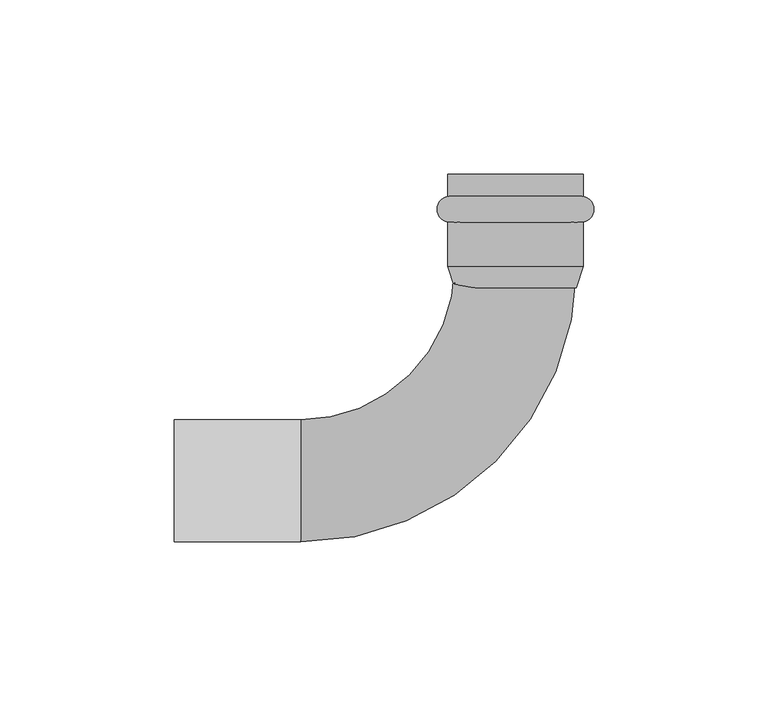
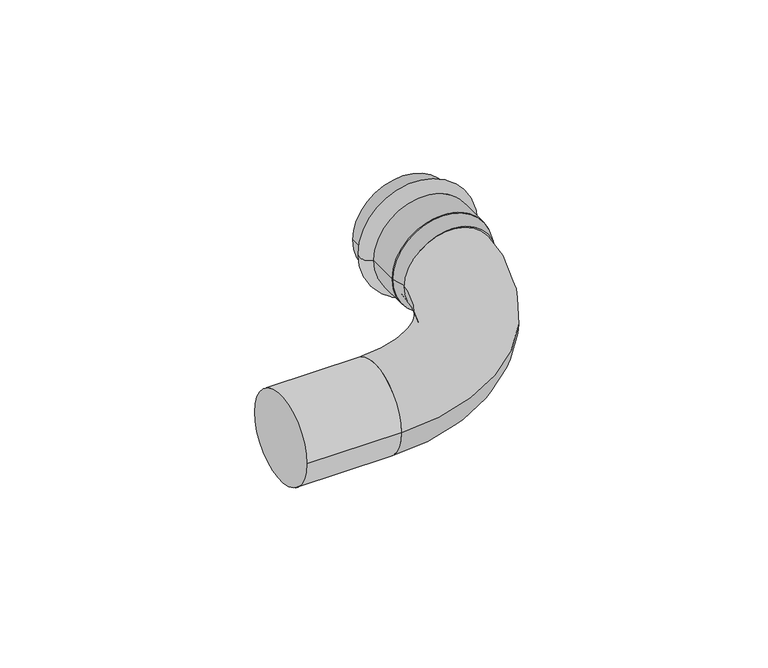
"""IFC4 building model written with IfcOpenShell, lengths in millimetres: pipe fitting geometry, VALTEC_VTi.950.I_Угольник 90° (раструб–труба) нержавеющая сталь : VTi.950.I."""

from ifc_helpers import new_model, si_unit, point, frame, origin, origin_2d, place, context, project, spatial, polyline, circle_curve, ellipse_curve, trimmed, segment, composite_curve, outline, extrude, source, transform, mapped, element, save
from ifc_brep_helpers import plane_surface, cylinder_surface, revolved_surface, advanced_brep


def pipe_fitting_832404bc(model_context):
    return source(origin(), model_context, "Body", "SolidModel", [
        advanced_brep(
        [(-19.4, 81.6432371, 0.0), (19.4, 81.6432371, 0.0), (19.4, 74.2567629, 0.0), (-19.4, 74.2567629, 0.0), (-19.4, 88.0, 0.0), (19.4, 88.0, 0.0), (-17.5, 88.0, 0.0), (17.5, 88.0, 0.0), (-17.5, 61.6, 0.0), (17.5, 61.6, 0.0), (-19.4, 61.6, 0.0), (19.4, 61.6, 0.0)],
        [
            (0, 1, circle_curve(frame((0.0, 81.6432371, 0.0), z_axis=(0.0, -1.0, 0.0), x_axis=(1.0, 0.0, 0.0)), 19.4)),
            (1, 2, circle_curve(frame((18.75, 77.95, 0.0), z_axis=(0.0, 0.0, -1.0), x_axis=(0.0, -1.0, 0.0)), 3.75)),
            (2, 3, circle_curve(frame((0.0, 74.2567629, 0.0), z_axis=(0.0, 1.0, 0.0), x_axis=(1.0, 0.0, 0.0)), 19.4)),
            (3, 0, circle_curve(frame((-18.75, 77.95, 0.0), z_axis=(0.0, 0.0, -1.0), x_axis=(0.0, -1.0, 0.0)), 3.75)),
            (1, 0, circle_curve(frame((0.0, 81.6432371, 0.0), z_axis=(0.0, -1.0, 0.0), x_axis=(1.0, 0.0, 0.0)), 19.4)),
            (3, 2, circle_curve(frame((0.0, 74.2567629, 0.0), z_axis=(0.0, 1.0, 0.0), x_axis=(1.0, 0.0, 0.0)), 19.4)),
            (4, 5, circle_curve(frame((0.0, 88.0, 0.0), z_axis=(0.0, -1.0, 0.0), x_axis=(1.0, 0.0, 0.0)), 19.4)),
            (5, 1),
            (0, 4),
            (5, 4, circle_curve(frame((0.0, 88.0, 0.0), z_axis=(0.0, -1.0, 0.0), x_axis=(1.0, 0.0, 0.0)), 19.4)),
            (6, 7, circle_curve(frame((0.0, 88.0, 0.0), z_axis=(0.0, -1.0, 0.0), x_axis=(1.0, 0.0, 0.0)), 17.5)),
            (7, 5),
            (4, 6),
            (7, 6, circle_curve(frame((0.0, 88.0, 0.0), z_axis=(0.0, -1.0, 0.0), x_axis=(1.0, 0.0, 0.0)), 17.5)),
            (8, 9, circle_curve(frame((0.0, 61.6, 0.0), z_axis=(0.0, -1.0, 0.0), x_axis=(1.0, 0.0, 0.0)), 17.5)),
            (9, 7),
            (6, 8),
            (9, 8, circle_curve(frame((0.0, 61.6, 0.0), z_axis=(0.0, -1.0, 0.0), x_axis=(1.0, 0.0, 0.0)), 17.5)),
            (10, 11, circle_curve(frame((0.0, 61.6, 0.0), z_axis=(0.0, -1.0, 0.0), x_axis=(1.0, 0.0, 0.0)), 19.4)),
            (11, 9),
            (8, 10),
            (11, 10, circle_curve(frame((0.0, 61.6, 0.0), z_axis=(0.0, -1.0, 0.0), x_axis=(1.0, 0.0, 0.0)), 19.4)),
            (2, 11),
            (10, 3),
        ],
        [
            revolved_surface(trimmed(ellipse_curve(frame((18.75, 77.95, 0.0), z_axis=(0.0, 0.0, 1.0), x_axis=(0.0, -1.0, 0.0)), 3.75, 3.75), [point((19.4, 74.2567629, 0.0))], [point((19.4, 81.6432371, 0.0))], True, "CARTESIAN"), (0.0, 91.5364426, 0.0), (0.0, 1.0, 0.0)),
            cylinder_surface(frame((0.0, 91.5364426, 0.0), z_axis=(0.0, 1.0, 0.0), x_axis=(1.0, 0.0, 0.0)), 19.4),
            plane_surface(frame((0.0, 88.0, 0.0), z_axis=(0.0, 1.0, 0.0), x_axis=(1.0, 0.0, 0.0))),
            revolved_surface(polyline([(17.5, 88.0, 0.0), (17.5, 61.6, 0.0)]), (0.0, 91.5364426, 0.0), (0.0, 1.0, 0.0)),
            plane_surface(frame((0.0, 61.6, 0.0), z_axis=(0.0, -1.0, 0.0), x_axis=(1.0, 0.0, 0.0))),
        ],
        [
            (0, [[1, 2, 3, 4]]),
            (0, [[5, -4, 6, -2]]),
            (1, [[7, 8, -1, 9]]),
            (1, [[10, -9, -5, -8]]),
            (2, [[11, 12, -7, 13]]),
            (2, [[14, -13, -10, -12]]),
            (3, [[15, 16, -11, 17]]),
            (3, [[18, -17, -14, -16]]),
            (4, [[19, 20, -15, 21]]),
            (4, [[22, -21, -18, -20]]),
            (1, [[-3, 23, -19, 24]]),
            (1, [[-6, -24, -22, -23]]),
        ],
    ),
        extrude(outline(composite_curve([segment(trimmed(circle_curve(origin_2d(), 17.5), [point((-17.5, 0.0))], [point((17.5, 0.0))], False, "CARTESIAN"), True, "CONTINUOUS"), segment(trimmed(circle_curve(origin_2d(), 17.5), [point((17.5, 0.0))], [point((-17.5, 0.0))], False, "CARTESIAN"), True, "CONTINUOUS")], self_intersect=False)), frame((-98.0, 0.0, 0.0), z_axis=(1.0, 0.0, 0.0), x_axis=(0.0, 1.0, 0.0)), (0.0, 0.0, 1.0), 36.4),
        advanced_brep(
        [(-19.4, 61.6, 0.0), (19.4, 61.6, 0.0), (-17.5, 55.44, 0.0), (17.5, 55.44, 0.0)],
        [
            (0, 1, circle_curve(frame((0.0, 61.6, 0.0), z_axis=(0.0, 1.0, 0.0), x_axis=(-1.0, 0.0, 0.0)), 19.4)),
            (1, 0, circle_curve(frame((0.0, 61.6, 0.0), z_axis=(0.0, 1.0, 0.0), x_axis=(1.0, 0.0, 0.0)), 19.4)),
            (2, 3, circle_curve(frame((0.0, 55.44, 0.0), z_axis=(0.0, -1.0, 0.0), x_axis=(1.0, 0.0, 0.0)), 17.5)),
            (3, 2, circle_curve(frame((0.0, 55.44, 0.0), z_axis=(0.0, -1.0, 0.0), x_axis=(-1.0, 0.0, 0.0)), 17.5)),
            (2, 0),
            (1, 3),
        ],
        [
            plane_surface(frame((0.0, 61.6, 0.0), z_axis=(0.0, 1.0, 0.0), x_axis=(0.0, 0.0, -1.0))),
            plane_surface(frame((0.0, 55.44, 0.0), z_axis=(0.0, -1.0, 0.0), x_axis=(0.0, 0.0, -1.0))),
            revolved_surface(polyline([(-17.49999999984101, 55.44, 0.0), (-19.4, 61.6, 0.0)]), (0.0, -1.2968421, 0.0), (0.0, 1.0, 0.0)),
            revolved_surface(polyline([(17.49999999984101, 55.44, 0.0), (19.4, 61.6, 0.0)]), (0.0, -1.2968421, 0.0), (0.0, 1.0, 0.0)),
        ],
        [
            (0, [[1, 2]]),
            (1, [[3, 4]]),
            (2, [[-3, 5, -2, 6]]),
            (3, [[-4, -6, -1, -5]]),
        ],
    ),
        advanced_brep(
        [(-61.6, -17.5551605, 0.0), (-61.6, 17.4448395, 0.0), (17.5551605, 61.6, 0.0), (-17.4448395, 61.6, 0.0)],
        [
            (0, 1, circle_curve(frame((-61.6, -0.0551605, 0.0), z_axis=(-1.0, 0.0, 0.0), x_axis=(0.0, 1.0, 0.0)), 17.5)),
            (1, 0, circle_curve(frame((-61.6, -0.0551605, 0.0), z_axis=(-1.0, 0.0, 0.0), x_axis=(0.0, 1.0, 0.0)), 17.5)),
            (2, 3, circle_curve(frame((0.0551605, 61.6, 0.0), z_axis=(0.0, 1.0, 0.0), x_axis=(-1.0, 0.0, 0.0)), 17.5)),
            (3, 2, circle_curve(frame((0.0551605, 61.6, 0.0), z_axis=(0.0, 1.0, 0.0), x_axis=(-1.0, 0.0, 0.0)), 17.5)),
            (3, 1, circle_curve(frame((-61.6, 61.6, 0.0), z_axis=(0.0, 0.0, -1.0), x_axis=(0.0, -1.0, 0.0)), 44.1551605)),
            (0, 2, circle_curve(frame((-61.6, 61.6, 0.0), z_axis=(0.0, 0.0, 1.0), x_axis=(0.0, -1.0, 0.0)), 79.1551605)),
        ],
        [
            plane_surface(frame((-61.6, 0.0, 0.0), z_axis=(-1.0, 0.0, 0.0), x_axis=(0.0, 0.0, 1.0))),
            plane_surface(frame((0.0, 61.6, 0.0), z_axis=(0.0, 1.0, 0.0), x_axis=(0.0, 0.0, 1.0))),
            revolved_surface(trimmed(ellipse_curve(frame((-61.6, -0.0551605, 0.0), z_axis=(-1.0, 0.0, 0.0), x_axis=(0.0, 1.0, 0.0)), 17.5, 17.5), [point((-61.6, -17.5551605, 0.0))], [point((-61.6, 17.4448395, 0.0))], True, "CARTESIAN"), (-61.6, 61.6, 0.0), (0.0, 0.0, 1.0)),
            revolved_surface(trimmed(ellipse_curve(frame((-61.6, -0.0551605, 0.0), z_axis=(-1.0, 0.0, 0.0), x_axis=(0.0, 1.0, 0.0)), 17.5, 17.5), [point((-61.6, 17.4448395, 0.0))], [point((-61.6, -17.5551605, 0.0))], True, "CARTESIAN"), (-61.6, 61.6, 0.0), (0.0, 0.0, 1.0)),
        ],
        [
            (0, [[1, 2]]),
            (1, [[3, 4]]),
            (2, [[5, -1, 6, -4]]),
            (3, [[-6, -2, -5, -3]]),
        ],
    ),
    ])


if __name__ == "__main__":
    model = new_model("IFC4")
    model_context = context("Model", 3, world=origin())
    ifc_project = project(units=[si_unit("LENGTHUNIT", "METRE", prefix="MILLI")], contexts=[model_context])
    site = spatial("IfcSite", under=ifc_project)
    building = spatial("IfcBuilding", under=site)
    placement = place(None, origin())
    pipe_fitting_shape = pipe_fitting_832404bc(model_context)
    element("IfcPipeFitting", 1, ObjectType="VALTEC_VTi.950.I_Угольник 90° (раструб–труба) нержавеющая сталь : VTi.950.I", at=placement, inside=building, context=model_context, shape_type="MappedRepresentation", body=[
        mapped(pipe_fitting_shape, transform((0.0, 0.0, 0.0), x_axis=(1.0, 0.0, 0.0), y_axis=(0.0, 1.0, 0.0), z_axis=(0.0, 0.0, 1.0))),
    ])
    save(model, "model.ifc")
